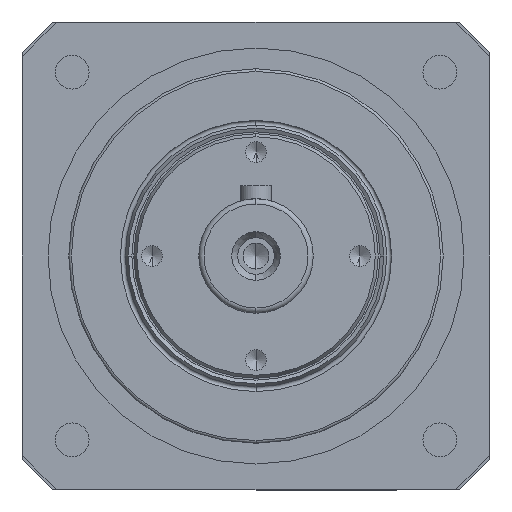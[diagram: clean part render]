
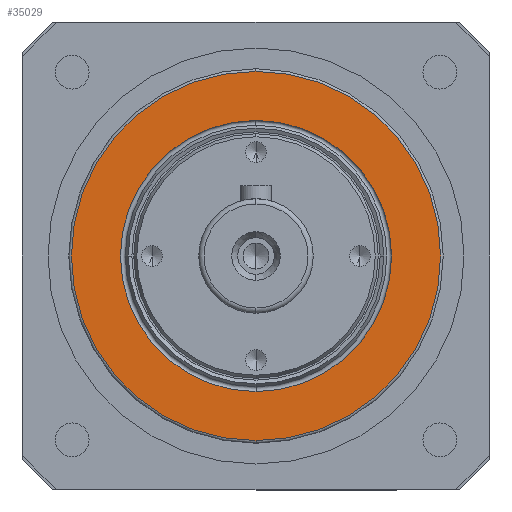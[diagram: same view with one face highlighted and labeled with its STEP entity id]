
A CAD part, left-side view. The second image highlights one B-rep face of the part: STEP entity #35029.
In plain terms, the highlighted planar face has unit normal (-1, 0, 0) as drawn and (0, -1, 0) by its records, which use the part's own axes.
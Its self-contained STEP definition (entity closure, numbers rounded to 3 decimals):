
#69 = VERTEX_POINT ( 'NONE', #650 ) ;
#650 = CARTESIAN_POINT ( 'NONE',  ( 0., 0., 35.5 ) ) ;
#4638 = CARTESIAN_POINT ( 'NONE',  ( 0., 0., 0. ) ) ;
#5521 = AXIS2_PLACEMENT_3D ( 'NONE', #28758, #12376, #31426 ) ;
#7137 = CIRCLE ( 'NONE', #5521, 35.5 ) ;
#7393 = DIRECTION ( 'NONE',  ( 0., 0., 1. ) ) ;
#9717 = FACE_OUTER_BOUND ( 'NONE', #11449, .T. ) ;
#11446 = ORIENTED_EDGE ( 'NONE', *, *, #12633, .T. ) ;
#11449 = EDGE_LOOP ( 'NONE', ( #21990, #32805 ) ) ;
#11484 = CARTESIAN_POINT ( 'NONE',  ( 0., 0., -26.073 ) ) ;
#12376 = DIRECTION ( 'NONE',  ( 0., -1., 0. ) ) ;
#12633 = EDGE_CURVE ( 'NONE', #33966, #26165, #32257, .T. ) ;
#15467 = DIRECTION ( 'NONE',  ( 0., 0., -1. ) ) ;
#15944 = AXIS2_PLACEMENT_3D ( 'NONE', #23631, #31729, #15467 ) ;
#16237 = CARTESIAN_POINT ( 'NONE',  ( 0., 0., 26.073 ) ) ;
#17011 = AXIS2_PLACEMENT_3D ( 'NONE', #32109, #32058, #32022 ) ;
#17055 = FACE_BOUND ( 'NONE', #22543, .T. ) ;
#17810 = AXIS2_PLACEMENT_3D ( 'NONE', #4638, #23850, #7393 ) ;
#17852 = CIRCLE ( 'NONE', #22130, 35.5 ) ;
#18123 = EDGE_CURVE ( 'NONE', #30118, #69, #17852, .T. ) ;
#20922 = PLANE ( 'NONE',  #15944 ) ;
#21029 = CIRCLE ( 'NONE', #17810, 26.073 ) ;
#21990 = ORIENTED_EDGE ( 'NONE', *, *, #34609, .T. ) ;
#22130 = AXIS2_PLACEMENT_3D ( 'NONE', #23214, #23139, #23019 ) ;
#22543 = EDGE_LOOP ( 'NONE', ( #24834, #11446 ) ) ;
#23019 = DIRECTION ( 'NONE',  ( 0., 0., 1. ) ) ;
#23139 = DIRECTION ( 'NONE',  ( 0., -1., 0. ) ) ;
#23214 = CARTESIAN_POINT ( 'NONE',  ( 0., 0., 0. ) ) ;
#23631 = CARTESIAN_POINT ( 'NONE',  ( 0., 0., 35.5 ) ) ;
#23850 = DIRECTION ( 'NONE',  ( 0., 1., 0. ) ) ;
#24834 = ORIENTED_EDGE ( 'NONE', *, *, #30323, .T. ) ;
#25602 = CARTESIAN_POINT ( 'NONE',  ( 0., 0., -35.5 ) ) ;
#26165 = VERTEX_POINT ( 'NONE', #16237 ) ;
#28758 = CARTESIAN_POINT ( 'NONE',  ( 0., 0., 0. ) ) ;
#30118 = VERTEX_POINT ( 'NONE', #25602 ) ;
#30323 = EDGE_CURVE ( 'NONE', #26165, #33966, #21029, .T. ) ;
#31426 = DIRECTION ( 'NONE',  ( 0., 0., 1. ) ) ;
#31729 = DIRECTION ( 'NONE',  ( 0., -1., 0. ) ) ;
#32022 = DIRECTION ( 'NONE',  ( 0., 0., 1. ) ) ;
#32058 = DIRECTION ( 'NONE',  ( 0., 1., 0. ) ) ;
#32109 = CARTESIAN_POINT ( 'NONE',  ( 0., 0., 0. ) ) ;
#32257 = CIRCLE ( 'NONE', #17011, 26.073 ) ;
#32805 = ORIENTED_EDGE ( 'NONE', *, *, #18123, .T. ) ;
#33966 = VERTEX_POINT ( 'NONE', #11484 ) ;
#34609 = EDGE_CURVE ( 'NONE', #69, #30118, #7137, .T. ) ;
#35029 = ADVANCED_FACE ( 'NONE', ( #17055, #9717 ), #20922, .T. ) ;
